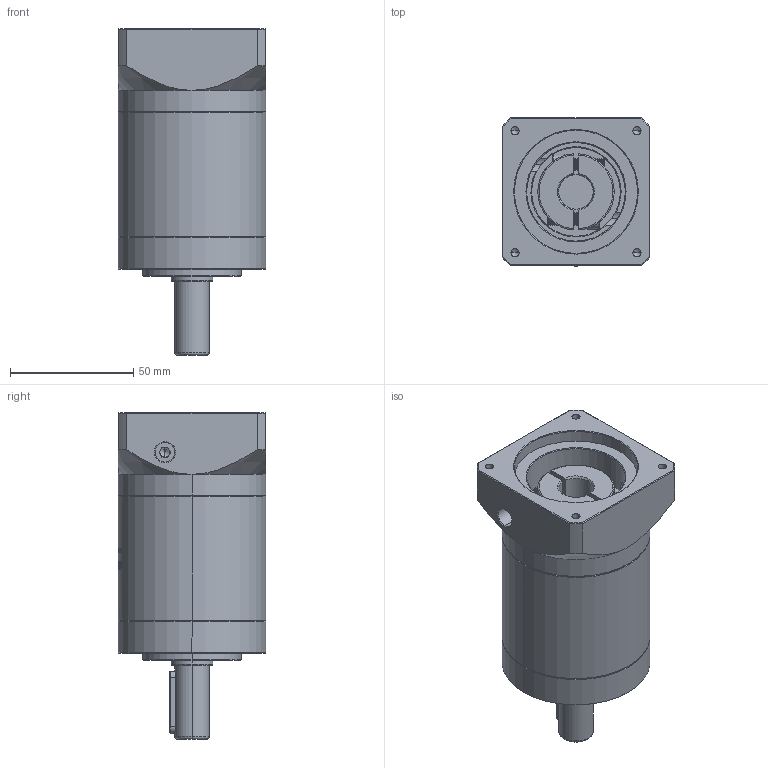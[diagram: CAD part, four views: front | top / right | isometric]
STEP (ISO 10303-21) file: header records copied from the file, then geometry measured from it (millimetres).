
FILE_DESCRIPTION (( 'STEP AP214' ), '1' );
FILE_NAME ('ZE60-D14-L2-14-50-70-M4.STEP', '2022-04-17T15:26:55', ( '' ), ( 'Microsoft' ), 'SwSTEP 2.0', 'SolidWorks 2016', '' );
FILE_SCHEMA (( 'AUTOMOTIVE_DESIGN' ));
Length unit declared in the file: millimetre
Products named in the file (1): ZE60-D14-L2-14-50-70-M4
Bounding box: 60 x 60 x 132.5 mm (x, y, z)
Volume: 262374.3 mm3; surface area: 45557.2 mm2
Topology: 6 solids, 6 shells, 1598 faces, 4329 edges, 2803 vertices
Faces by surface type: plane 724, cylinder 335, bspline 299, cone 220, torus 20
Entity records: 90452 total; most frequent: CARTESIAN_POINT 36354, ORIENTED_EDGE 8614, DIRECTION 6301, EDGE_CURVE 4307, VERTEX_POINT 2803, VECTOR 2203, LINE 2203, AXIS2_PLACEMENT_3D 2049
